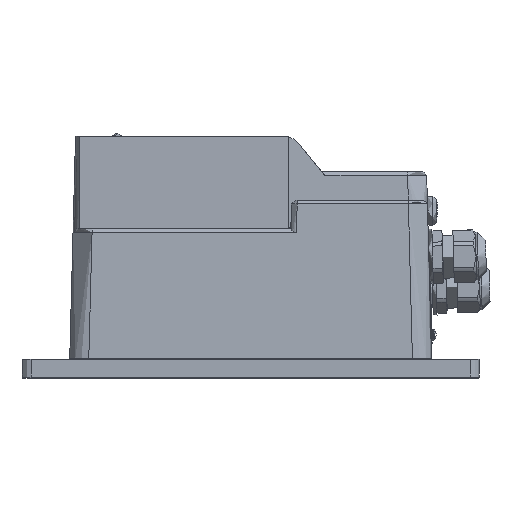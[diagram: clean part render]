
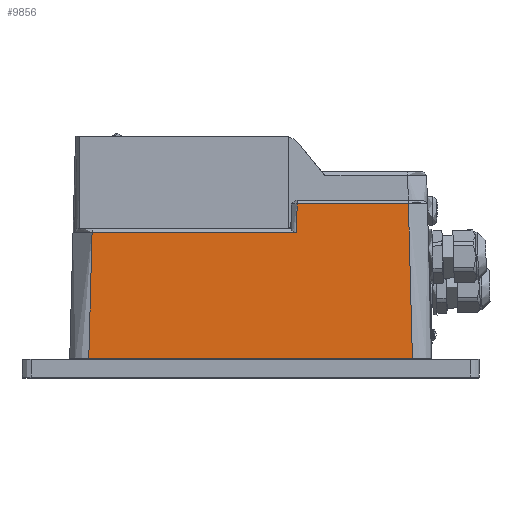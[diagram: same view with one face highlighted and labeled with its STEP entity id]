
A CAD part, left-side view. The second image highlights one B-rep face of the part: STEP entity #9856.
In plain terms, the highlighted planar face has unit normal (-1, 0, 0.026).
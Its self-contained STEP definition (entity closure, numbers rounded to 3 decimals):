
#1968=FACE_OUTER_BOUND('',#15040,.T.);
#4188=LINE('',#58163,#6874);
#4203=LINE('',#58242,#6889);
#4205=LINE('',#58248,#6891);
#4206=LINE('',#58249,#6892);
#4207=LINE('',#58251,#6893);
#4208=LINE('',#58253,#6894);
#6874=VECTOR('',#42093,1.);
#6889=VECTOR('',#42162,1.);
#6891=VECTOR('',#42168,1.);
#6892=VECTOR('',#42169,1.);
#6893=VECTOR('',#42170,1.);
#6894=VECTOR('',#42171,1.);
#9856=ADVANCED_FACE('',(#1968),#11103,.F.);
#11103=PLANE('',#34979);
#15040=EDGE_LOOP('',(#22027,#22028,#22029,#22030,#22031,#22032));
#22027=ORIENTED_EDGE('',*,*,#31266,.T.);
#22028=ORIENTED_EDGE('',*,*,#31298,.F.);
#22029=ORIENTED_EDGE('',*,*,#31295,.T.);
#22030=ORIENTED_EDGE('',*,*,#31299,.T.);
#22031=ORIENTED_EDGE('',*,*,#31300,.T.);
#22032=ORIENTED_EDGE('',*,*,#31301,.T.);
#27114=VERTEX_POINT('',#58157);
#27117=VERTEX_POINT('',#58162);
#27136=VERTEX_POINT('',#58241);
#27137=VERTEX_POINT('',#58243);
#27139=VERTEX_POINT('',#58250);
#27140=VERTEX_POINT('',#58252);
#31266=EDGE_CURVE('',#27114,#27117,#4188,.T.);
#31295=EDGE_CURVE('',#27137,#27136,#4203,.T.);
#31298=EDGE_CURVE('',#27137,#27117,#4205,.T.);
#31299=EDGE_CURVE('',#27136,#27139,#4206,.T.);
#31300=EDGE_CURVE('',#27139,#27140,#4207,.T.);
#31301=EDGE_CURVE('',#27140,#27114,#4208,.T.);
#34979=AXIS2_PLACEMENT_3D('',#58254,#42172,#42173);
#42093=DIRECTION('',(-0.026,0.026,-0.999));
#42162=DIRECTION('',(0.026,0.026,0.999));
#42168=DIRECTION('',(0.,1.,0.));
#42169=DIRECTION('',(0.,1.,0.));
#42170=DIRECTION('',(-0.026,0.026,-0.999));
#42171=DIRECTION('',(0.,1.,0.));
#42172=DIRECTION('',(1.,0.,-0.026));
#42173=DIRECTION('',(-0.026,0.,-1.));
#58157=CARTESIAN_POINT('',(494.07,-1203.197,-22.102));
#58162=CARTESIAN_POINT('',(492.345,-1201.472,-87.95));
#58163=CARTESIAN_POINT('',(492.342,-1201.468,-88.092));
#58241=CARTESIAN_POINT('',(494.465,-1369.254,-6.999));
#58242=CARTESIAN_POINT('',(492.362,-1371.356,-87.307));
#58243=CARTESIAN_POINT('',(492.345,-1371.373,-87.95));
#58248=CARTESIAN_POINT('',(492.345,-1271.423,-87.95));
#58249=CARTESIAN_POINT('',(494.465,-1309.686,-6.999));
#58250=CARTESIAN_POINT('',(494.465,-1310.881,-6.999));
#58251=CARTESIAN_POINT('',(492.268,-1308.684,-90.897));
#58252=CARTESIAN_POINT('',(494.07,-1310.486,-22.102));
#58253=CARTESIAN_POINT('',(494.07,-1271.423,-22.102));
#58254=CARTESIAN_POINT('',(492.294,-1271.423,-89.922));
